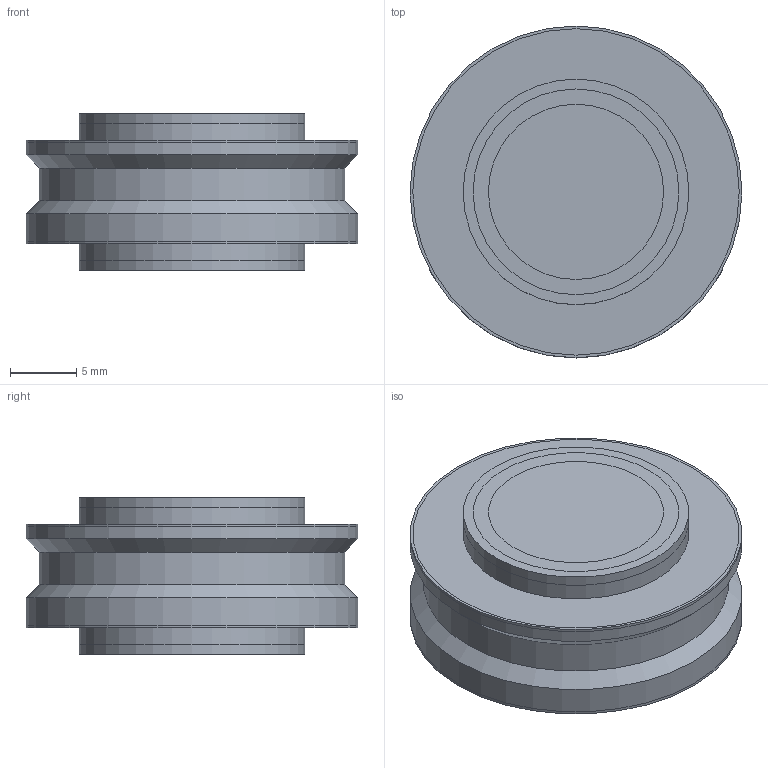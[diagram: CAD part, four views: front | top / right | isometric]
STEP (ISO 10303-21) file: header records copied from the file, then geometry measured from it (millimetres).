
FILE_DESCRIPTION(('FreeCAD Model'),'2;1');
FILE_NAME('D:/Desktop/3d parts/zip/Pinch-roller.step', '2021-10-14T19:07:11',('Author'),(''), 'Open CASCADE STEP processor 7.3','FreeCAD','Unknown');
FILE_SCHEMA(('AUTOMOTIVE_DESIGN { 1 0 10303 214 1 1 1 1 }'));
Length unit declared in the file: millimetre
Products named in the file (15): Fillet; Revolution; Chamfer_Refined; Sketch001; Sketch003; Sketch002; Sketch; Chamfer_(Solid); Chamfer; Fillet001; Fillet002; Fillet003; Pocket; Pocket001; Pocket002
Bounding box: 25 x 25 x 11.8 mm (x, y, z)
Surface area: 23189.4 mm2
Topology: 11 solids, 11 shells, 195 faces, 339 edges, 219 vertices
Faces by surface type: cylinder 82, plane 63, cone 28, torus 22
Full cylindrical faces by diameter (mm): 10 x8, 13.2 x19, 17 x22, 23 x11, 25 x22
Entity records: 9248 total; most frequent: CARTESIAN_POINT 1683, DIRECTION 1503, ORIENTED_EDGE 648, PCURVE 648, DEFINITIONAL_REPRESENTATION 648, LINE 594, VECTOR 594, AXIS2_PLACEMENT_3D 413
